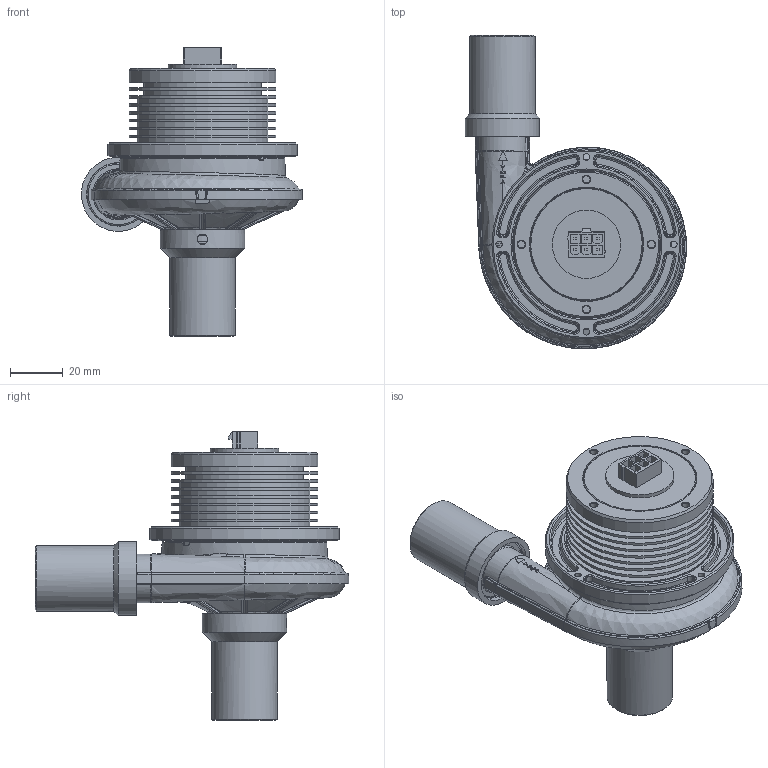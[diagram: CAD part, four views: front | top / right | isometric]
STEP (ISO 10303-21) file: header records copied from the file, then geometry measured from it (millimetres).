
FILE_DESCRIPTION(/* description */ (''),/* implementation_level */ '2;1');
FILE_NAME(/* name */ 'U85MX-024KE-43.stp',/* time_stamp */ '2024-06-20T15:40:23+02:00',/* author */ (''),/* organization */ (''),/* preprocessor_version */ 'ST-DEVELOPER v16.7',/* originating_system */ 'SIEMENS PLM Software NX 1946',/* authorisation */ '');
FILE_SCHEMA (('AUTOMOTIVE_DESIGN { 1 0 10303 214 3 1 1 1 }'));
Length unit declared in the file: millimetre
Products named in the file (1): 021719_1-U85MX-024KE-43_simple _-_
Bounding box: 84.19 x 119.45 x 110 mm (x, y, z)
Volume: 202708.4 mm3; surface area: 50794.2 mm2
Topology: 1 solids, 2 shells, 973 faces, 2371 edges, 1465 vertices
Faces by surface type: plane 365, cylinder 248, bspline 243, cone 59, torus 44, sphere 12, extrusion 1, revolution 1
Full cylindrical faces by diameter (mm): 2.5 x4, 2.75 x4, 4 x1, 14.5 x1, 14.6 x1, 18.5 x1, 19 x1, 23 x1, 23.34 x1, 24 x1, 24.2 x1, 25 x3, 25.9 x1, 26 x1, 27 x1, 27.1 x1, 28.2 x1, 32.1 x1, 43 x1, 45 x2, 50 x7, 56 x9, 72 x1
Entity records: 36760 total; most frequent: CARTESIAN_POINT 17245, ORIENTED_EDGE 4516, DIRECTION 3038, EDGE_CURVE 2258, VERTEX_POINT 1436, AXIS2_PLACEMENT_3D 1160, EDGE_LOOP 1138, B_SPLINE_CURVE_WITH_KNOTS 1088
